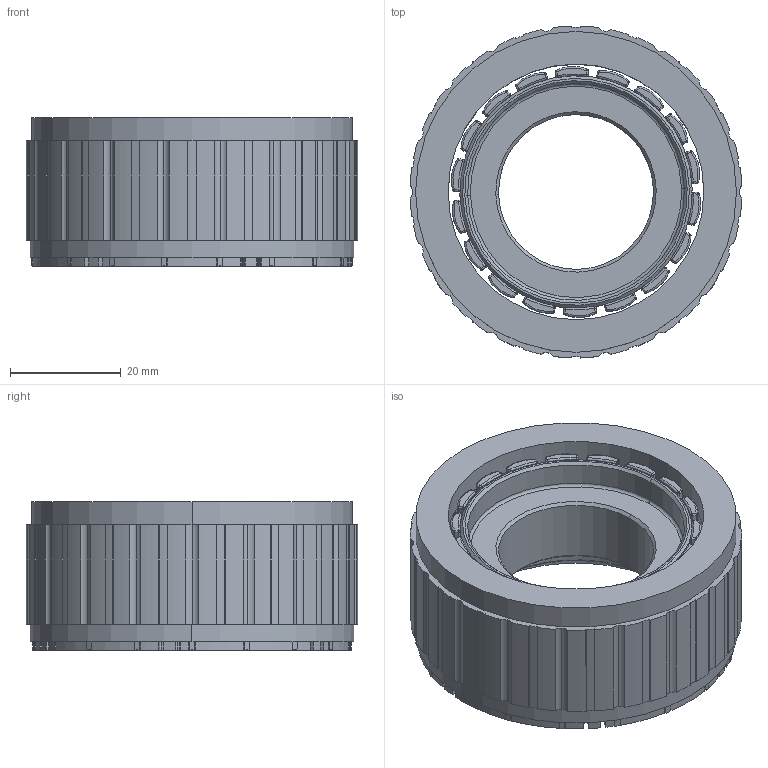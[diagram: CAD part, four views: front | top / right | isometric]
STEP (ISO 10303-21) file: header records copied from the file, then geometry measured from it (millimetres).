
FILE_DESCRIPTION (( 'STEP AP214' ), '1' );
FILE_NAME ('6018蚾饜极.STEP', '2025-08-28T09:24:50', ( '' ), ( '' ), 'SwSTEP 2.0', 'SolidWorks 2023', '' );
FILE_SCHEMA (( 'AUTOMOTIVE_DESIGN' ));
Length unit declared in the file: millimetre
Products named in the file (1): 6018装配体
Bounding box: 59.96 x 59.98 x 26.91 mm (x, y, z)
Volume: 43540.9 mm3; surface area: 27884 mm2
Topology: 22 solids, 22 shells, 1032 faces, 2516 edges, 1486 vertices
Faces by surface type: cylinder 467, plane 297, sphere 144, torus 76, cone 48
Entity records: 29274 total; most frequent: DIRECTION 5608, CARTESIAN_POINT 4927, ORIENTED_EDGE 4744, EDGE_CURVE 2372, AXIS2_PLACEMENT_3D 2239, VERTEX_POINT 1414, CIRCLE 1206, LINE 1130
